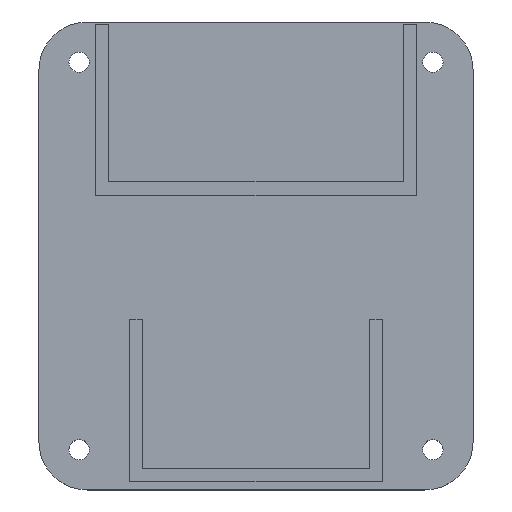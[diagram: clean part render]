
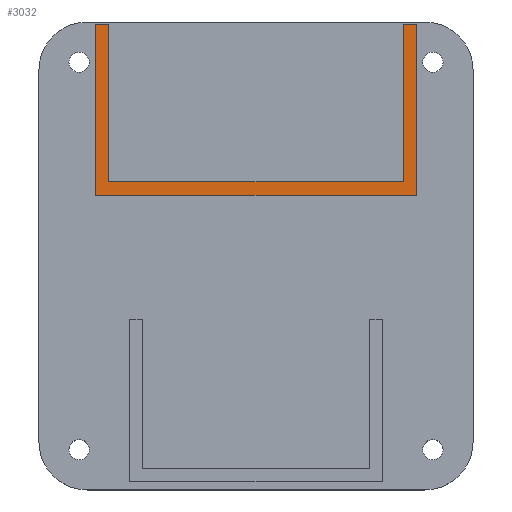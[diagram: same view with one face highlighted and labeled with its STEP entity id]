
A CAD part, top view. The second image highlights one B-rep face of the part: STEP entity #3032.
In plain terms, the highlighted planar face has unit normal (0, 0, 1).
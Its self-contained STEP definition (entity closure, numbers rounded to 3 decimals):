
#1181 = PLANE('',#1182);
#1182 = AXIS2_PLACEMENT_3D('',#1183,#1184,#1185);
#1183 = CARTESIAN_POINT('',(-19.05,7.2,2.4));
#1184 = DIRECTION('',(1.,0.,0.));
#1185 = DIRECTION('',(0.,0.,1.));
#1209 = PLANE('',#1210);
#1210 = AXIS2_PLACEMENT_3D('',#1211,#1212,#1213);
#1211 = CARTESIAN_POINT('',(-19.05,27.5,2.4));
#1212 = DIRECTION('',(0.,1.,0.));
#1213 = DIRECTION('',(0.,0.,1.));
#1237 = PLANE('',#1238);
#1238 = AXIS2_PLACEMENT_3D('',#1239,#1240,#1241);
#1239 = CARTESIAN_POINT('',(-17.45,8.5,2.4));
#1240 = DIRECTION('',(1.,0.,0.));
#1241 = DIRECTION('',(0.,0.,1.));
#1265 = PLANE('',#1266);
#1266 = AXIS2_PLACEMENT_3D('',#1267,#1268,#1269);
#1267 = CARTESIAN_POINT('',(-19.05,8.8,2.4));
#1268 = DIRECTION('',(0.,1.,0.));
#1269 = DIRECTION('',(0.,0.,1.));
#1293 = PLANE('',#1294);
#1294 = AXIS2_PLACEMENT_3D('',#1295,#1296,#1297);
#1295 = CARTESIAN_POINT('',(17.45,8.5,2.4));
#1296 = DIRECTION('',(1.,0.,0.));
#1297 = DIRECTION('',(0.,0.,1.));
#1321 = PLANE('',#1322);
#1322 = AXIS2_PLACEMENT_3D('',#1323,#1324,#1325);
#1323 = CARTESIAN_POINT('',(17.45,27.5,2.4));
#1324 = DIRECTION('',(0.,1.,0.));
#1325 = DIRECTION('',(0.,0.,1.));
#1349 = PLANE('',#1350);
#1350 = AXIS2_PLACEMENT_3D('',#1351,#1352,#1353);
#1351 = CARTESIAN_POINT('',(19.05,7.2,2.4));
#1352 = DIRECTION('',(1.,0.,0.));
#1353 = DIRECTION('',(0.,0.,1.));
#1375 = PLANE('',#1376);
#1376 = AXIS2_PLACEMENT_3D('',#1377,#1378,#1379);
#1377 = CARTESIAN_POINT('',(-19.05,7.2,2.4));
#1378 = DIRECTION('',(0.,1.,0.));
#1379 = DIRECTION('',(0.,0.,1.));
#2534 = EDGE_CURVE('',#2535,#2537,#2539,.T.);
#2535 = VERTEX_POINT('',#2536);
#2536 = CARTESIAN_POINT('',(-19.05,7.2,4.4));
#2537 = VERTEX_POINT('',#2538);
#2538 = CARTESIAN_POINT('',(-19.05,27.5,4.4));
#2539 = SURFACE_CURVE('',#2540,(#2544,#2551),.PCURVE_S1.);
#2540 = LINE('',#2541,#2542);
#2541 = CARTESIAN_POINT('',(-19.05,7.2,4.4));
#2542 = VECTOR('',#2543,1.);
#2543 = DIRECTION('',(0.,1.,0.));
#2544 = PCURVE('',#1181,#2545);
#2545 = DEFINITIONAL_REPRESENTATION('',(#2546),#2550);
#2546 = LINE('',#2547,#2548);
#2547 = CARTESIAN_POINT('',(2.,0.));
#2548 = VECTOR('',#2549,1.);
#2549 = DIRECTION('',(0.,-1.));
#2550 = ( GEOMETRIC_REPRESENTATION_CONTEXT(2) 
PARAMETRIC_REPRESENTATION_CONTEXT() REPRESENTATION_CONTEXT('2D SPACE',''
  ) );
#2551 = PCURVE('',#2552,#2557);
#2552 = PLANE('',#2553);
#2553 = AXIS2_PLACEMENT_3D('',#2554,#2555,#2556);
#2554 = CARTESIAN_POINT('',(-19.05,7.2,4.4));
#2555 = DIRECTION('',(0.,0.,1.));
#2556 = DIRECTION('',(1.,0.,0.));
#2557 = DEFINITIONAL_REPRESENTATION('',(#2558),#2562);
#2558 = LINE('',#2559,#2560);
#2559 = CARTESIAN_POINT('',(0.,0.));
#2560 = VECTOR('',#2561,1.);
#2561 = DIRECTION('',(0.,1.));
#2562 = ( GEOMETRIC_REPRESENTATION_CONTEXT(2) 
PARAMETRIC_REPRESENTATION_CONTEXT() REPRESENTATION_CONTEXT('2D SPACE',''
  ) );
#2612 = EDGE_CURVE('',#2537,#2613,#2615,.T.);
#2613 = VERTEX_POINT('',#2614);
#2614 = CARTESIAN_POINT('',(-17.45,27.5,4.4));
#2615 = SURFACE_CURVE('',#2616,(#2620,#2627),.PCURVE_S1.);
#2616 = LINE('',#2617,#2618);
#2617 = CARTESIAN_POINT('',(-19.05,27.5,4.4));
#2618 = VECTOR('',#2619,1.);
#2619 = DIRECTION('',(1.,0.,0.));
#2620 = PCURVE('',#1209,#2621);
#2621 = DEFINITIONAL_REPRESENTATION('',(#2622),#2626);
#2622 = LINE('',#2623,#2624);
#2623 = CARTESIAN_POINT('',(2.,0.));
#2624 = VECTOR('',#2625,1.);
#2625 = DIRECTION('',(0.,1.));
#2626 = ( GEOMETRIC_REPRESENTATION_CONTEXT(2) 
PARAMETRIC_REPRESENTATION_CONTEXT() REPRESENTATION_CONTEXT('2D SPACE',''
  ) );
#2627 = PCURVE('',#2552,#2628);
#2628 = DEFINITIONAL_REPRESENTATION('',(#2629),#2633);
#2629 = LINE('',#2630,#2631);
#2630 = CARTESIAN_POINT('',(0.,20.3));
#2631 = VECTOR('',#2632,1.);
#2632 = DIRECTION('',(1.,0.));
#2633 = ( GEOMETRIC_REPRESENTATION_CONTEXT(2) 
PARAMETRIC_REPRESENTATION_CONTEXT() REPRESENTATION_CONTEXT('2D SPACE',''
  ) );
#2659 = EDGE_CURVE('',#2660,#2613,#2662,.T.);
#2660 = VERTEX_POINT('',#2661);
#2661 = CARTESIAN_POINT('',(-17.45,8.8,4.4));
#2662 = SURFACE_CURVE('',#2663,(#2667,#2674),.PCURVE_S1.);
#2663 = LINE('',#2664,#2665);
#2664 = CARTESIAN_POINT('',(-17.45,8.5,4.4));
#2665 = VECTOR('',#2666,1.);
#2666 = DIRECTION('',(0.,1.,0.));
#2667 = PCURVE('',#1237,#2668);
#2668 = DEFINITIONAL_REPRESENTATION('',(#2669),#2673);
#2669 = LINE('',#2670,#2671);
#2670 = CARTESIAN_POINT('',(2.,0.));
#2671 = VECTOR('',#2672,1.);
#2672 = DIRECTION('',(0.,-1.));
#2673 = ( GEOMETRIC_REPRESENTATION_CONTEXT(2) 
PARAMETRIC_REPRESENTATION_CONTEXT() REPRESENTATION_CONTEXT('2D SPACE',''
  ) );
#2674 = PCURVE('',#2552,#2675);
#2675 = DEFINITIONAL_REPRESENTATION('',(#2676),#2680);
#2676 = LINE('',#2677,#2678);
#2677 = CARTESIAN_POINT('',(1.6,1.3));
#2678 = VECTOR('',#2679,1.);
#2679 = DIRECTION('',(0.,1.));
#2680 = ( GEOMETRIC_REPRESENTATION_CONTEXT(2) 
PARAMETRIC_REPRESENTATION_CONTEXT() REPRESENTATION_CONTEXT('2D SPACE',''
  ) );
#2708 = EDGE_CURVE('',#2660,#2709,#2711,.T.);
#2709 = VERTEX_POINT('',#2710);
#2710 = CARTESIAN_POINT('',(17.45,8.8,4.4));
#2711 = SURFACE_CURVE('',#2712,(#2716,#2723),.PCURVE_S1.);
#2712 = LINE('',#2713,#2714);
#2713 = CARTESIAN_POINT('',(-19.05,8.8,4.4));
#2714 = VECTOR('',#2715,1.);
#2715 = DIRECTION('',(1.,0.,0.));
#2716 = PCURVE('',#1265,#2717);
#2717 = DEFINITIONAL_REPRESENTATION('',(#2718),#2722);
#2718 = LINE('',#2719,#2720);
#2719 = CARTESIAN_POINT('',(2.,0.));
#2720 = VECTOR('',#2721,1.);
#2721 = DIRECTION('',(0.,1.));
#2722 = ( GEOMETRIC_REPRESENTATION_CONTEXT(2) 
PARAMETRIC_REPRESENTATION_CONTEXT() REPRESENTATION_CONTEXT('2D SPACE',''
  ) );
#2723 = PCURVE('',#2552,#2724);
#2724 = DEFINITIONAL_REPRESENTATION('',(#2725),#2729);
#2725 = LINE('',#2726,#2727);
#2726 = CARTESIAN_POINT('',(0.,1.6));
#2727 = VECTOR('',#2728,1.);
#2728 = DIRECTION('',(1.,0.));
#2729 = ( GEOMETRIC_REPRESENTATION_CONTEXT(2) 
PARAMETRIC_REPRESENTATION_CONTEXT() REPRESENTATION_CONTEXT('2D SPACE',''
  ) );
#2753 = EDGE_CURVE('',#2709,#2754,#2756,.T.);
#2754 = VERTEX_POINT('',#2755);
#2755 = CARTESIAN_POINT('',(17.45,27.5,4.4));
#2756 = SURFACE_CURVE('',#2757,(#2761,#2768),.PCURVE_S1.);
#2757 = LINE('',#2758,#2759);
#2758 = CARTESIAN_POINT('',(17.45,8.5,4.4));
#2759 = VECTOR('',#2760,1.);
#2760 = DIRECTION('',(0.,1.,0.));
#2761 = PCURVE('',#1293,#2762);
#2762 = DEFINITIONAL_REPRESENTATION('',(#2763),#2767);
#2763 = LINE('',#2764,#2765);
#2764 = CARTESIAN_POINT('',(2.,0.));
#2765 = VECTOR('',#2766,1.);
#2766 = DIRECTION('',(0.,-1.));
#2767 = ( GEOMETRIC_REPRESENTATION_CONTEXT(2) 
PARAMETRIC_REPRESENTATION_CONTEXT() REPRESENTATION_CONTEXT('2D SPACE',''
  ) );
#2768 = PCURVE('',#2552,#2769);
#2769 = DEFINITIONAL_REPRESENTATION('',(#2770),#2774);
#2770 = LINE('',#2771,#2772);
#2771 = CARTESIAN_POINT('',(36.5,1.3));
#2772 = VECTOR('',#2773,1.);
#2773 = DIRECTION('',(0.,1.));
#2774 = ( GEOMETRIC_REPRESENTATION_CONTEXT(2) 
PARAMETRIC_REPRESENTATION_CONTEXT() REPRESENTATION_CONTEXT('2D SPACE',''
  ) );
#2804 = EDGE_CURVE('',#2754,#2805,#2807,.T.);
#2805 = VERTEX_POINT('',#2806);
#2806 = CARTESIAN_POINT('',(19.05,27.5,4.4));
#2807 = SURFACE_CURVE('',#2808,(#2812,#2819),.PCURVE_S1.);
#2808 = LINE('',#2809,#2810);
#2809 = CARTESIAN_POINT('',(17.45,27.5,4.4));
#2810 = VECTOR('',#2811,1.);
#2811 = DIRECTION('',(1.,0.,0.));
#2812 = PCURVE('',#1321,#2813);
#2813 = DEFINITIONAL_REPRESENTATION('',(#2814),#2818);
#2814 = LINE('',#2815,#2816);
#2815 = CARTESIAN_POINT('',(2.,0.));
#2816 = VECTOR('',#2817,1.);
#2817 = DIRECTION('',(0.,1.));
#2818 = ( GEOMETRIC_REPRESENTATION_CONTEXT(2) 
PARAMETRIC_REPRESENTATION_CONTEXT() REPRESENTATION_CONTEXT('2D SPACE',''
  ) );
#2819 = PCURVE('',#2552,#2820);
#2820 = DEFINITIONAL_REPRESENTATION('',(#2821),#2825);
#2821 = LINE('',#2822,#2823);
#2822 = CARTESIAN_POINT('',(36.5,20.3));
#2823 = VECTOR('',#2824,1.);
#2824 = DIRECTION('',(1.,0.));
#2825 = ( GEOMETRIC_REPRESENTATION_CONTEXT(2) 
PARAMETRIC_REPRESENTATION_CONTEXT() REPRESENTATION_CONTEXT('2D SPACE',''
  ) );
#2852 = VERTEX_POINT('',#2853);
#2853 = CARTESIAN_POINT('',(19.05,7.2,4.4));
#2876 = EDGE_CURVE('',#2805,#2852,#2877,.T.);
#2877 = SURFACE_CURVE('',#2878,(#2882,#2889),.PCURVE_S1.);
#2878 = LINE('',#2879,#2880);
#2879 = CARTESIAN_POINT('',(19.05,27.5,4.4));
#2880 = VECTOR('',#2881,1.);
#2881 = DIRECTION('',(0.,-1.,0.));
#2882 = PCURVE('',#1349,#2883);
#2883 = DEFINITIONAL_REPRESENTATION('',(#2884),#2888);
#2884 = LINE('',#2885,#2886);
#2885 = CARTESIAN_POINT('',(2.,-20.3));
#2886 = VECTOR('',#2887,1.);
#2887 = DIRECTION('',(0.,1.));
#2888 = ( GEOMETRIC_REPRESENTATION_CONTEXT(2) 
PARAMETRIC_REPRESENTATION_CONTEXT() REPRESENTATION_CONTEXT('2D SPACE',''
  ) );
#2889 = PCURVE('',#2552,#2890);
#2890 = DEFINITIONAL_REPRESENTATION('',(#2891),#2895);
#2891 = LINE('',#2892,#2893);
#2892 = CARTESIAN_POINT('',(38.1,20.3));
#2893 = VECTOR('',#2894,1.);
#2894 = DIRECTION('',(0.,-1.));
#2895 = ( GEOMETRIC_REPRESENTATION_CONTEXT(2) 
PARAMETRIC_REPRESENTATION_CONTEXT() REPRESENTATION_CONTEXT('2D SPACE',''
  ) );
#2902 = EDGE_CURVE('',#2535,#2852,#2903,.T.);
#2903 = SURFACE_CURVE('',#2904,(#2908,#2915),.PCURVE_S1.);
#2904 = LINE('',#2905,#2906);
#2905 = CARTESIAN_POINT('',(-19.05,7.2,4.4));
#2906 = VECTOR('',#2907,1.);
#2907 = DIRECTION('',(1.,0.,0.));
#2908 = PCURVE('',#1375,#2909);
#2909 = DEFINITIONAL_REPRESENTATION('',(#2910),#2914);
#2910 = LINE('',#2911,#2912);
#2911 = CARTESIAN_POINT('',(2.,0.));
#2912 = VECTOR('',#2913,1.);
#2913 = DIRECTION('',(0.,1.));
#2914 = ( GEOMETRIC_REPRESENTATION_CONTEXT(2) 
PARAMETRIC_REPRESENTATION_CONTEXT() REPRESENTATION_CONTEXT('2D SPACE',''
  ) );
#2915 = PCURVE('',#2552,#2916);
#2916 = DEFINITIONAL_REPRESENTATION('',(#2917),#2921);
#2917 = LINE('',#2918,#2919);
#2918 = CARTESIAN_POINT('',(0.,0.));
#2919 = VECTOR('',#2920,1.);
#2920 = DIRECTION('',(1.,0.));
#2921 = ( GEOMETRIC_REPRESENTATION_CONTEXT(2) 
PARAMETRIC_REPRESENTATION_CONTEXT() REPRESENTATION_CONTEXT('2D SPACE',''
  ) );
#3032 = ADVANCED_FACE('',(#3033),#2552,.T.);
#3033 = FACE_BOUND('',#3034,.T.);
#3034 = EDGE_LOOP('',(#3035,#3036,#3037,#3038,#3039,#3040,#3041,#3042));
#3035 = ORIENTED_EDGE('',*,*,#2534,.F.);
#3036 = ORIENTED_EDGE('',*,*,#2902,.T.);
#3037 = ORIENTED_EDGE('',*,*,#2876,.F.);
#3038 = ORIENTED_EDGE('',*,*,#2804,.F.);
#3039 = ORIENTED_EDGE('',*,*,#2753,.F.);
#3040 = ORIENTED_EDGE('',*,*,#2708,.F.);
#3041 = ORIENTED_EDGE('',*,*,#2659,.T.);
#3042 = ORIENTED_EDGE('',*,*,#2612,.F.);
